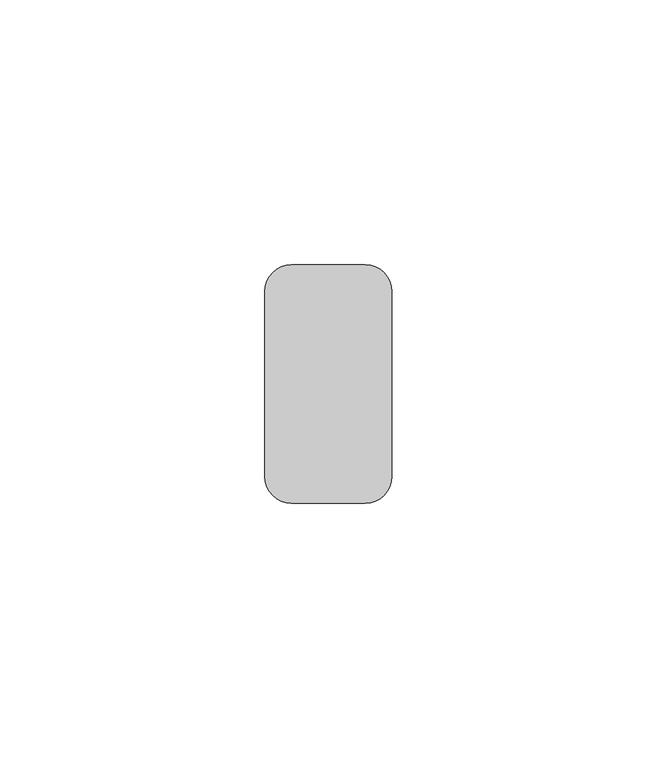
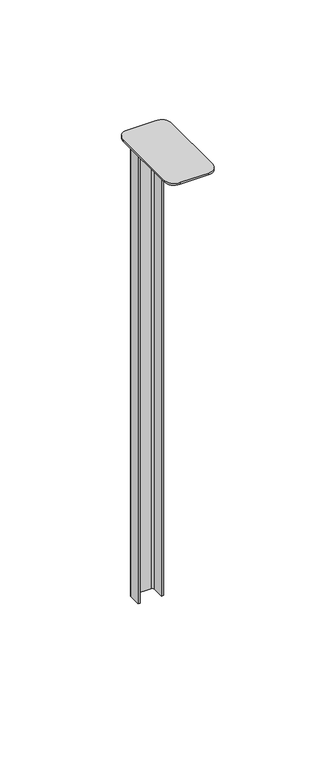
"""IFC4 building model written with IfcOpenShell, lengths in millimetres: proxy geometry, durlum_U1300 : durlum_U1300."""

from ifc_helpers import new_model, si_unit, point, frame, frame_2d, origin, place, context, project, spatial, polyline, circle_curve, trimmed, segment, composite_curve, outline, extrude, source, transform, mapped, element, save


def generic_models_e62b76ac(model_context):
    return source(origin(), model_context, "Body", "SweptSolid", [
        extrude(outline(composite_curve([segment(trimmed(circle_curve(frame_2d((7.0, -5.0)), 5.0), [point((7.0, 0.0))], [point((12.0, -5.0))], False, "CARTESIAN"), True, "CONTINUOUS"), segment(polyline([(12.0, -5.0), (12.0, -40.0)]), True, "CONTINUOUS"), segment(trimmed(circle_curve(frame_2d((7.0, -40.0)), 5.0), [point((12.0, -40.0))], [point((7.0, -45.0))], False, "CARTESIAN"), True, "CONTINUOUS"), segment(polyline([(7.0, -45.0), (-7.0, -45.0)]), True, "CONTINUOUS"), segment(trimmed(circle_curve(frame_2d((-7.0, -40.0)), 5.0), [point((-7.0, -45.0))], [point((-12.0, -40.0))], False, "CARTESIAN"), True, "CONTINUOUS"), segment(polyline([(-12.0, -40.0), (-12.0, -5.0)]), True, "CONTINUOUS"), segment(trimmed(circle_curve(frame_2d((-7.0, -5.0)), 5.0), [point((-12.0, -5.0))], [point((-7.0, 0.0))], False, "CARTESIAN"), True, "CONTINUOUS"), segment(polyline([(-7.0, 0.0), (7.0, 0.0)]), True, "CONTINUOUS")], self_intersect=False)), frame((0.0, 0.0, 957.5875318), z_axis=(0.0, 0.0, 1.0), x_axis=(1.0, 0.0, 0.0)), (0.0, 0.0, 1.0), 1.0),
        extrude(outline(composite_curve([segment(trimmed(circle_curve(frame_2d((-4.25, -2.0)), 2.0), [point((-6.25, -2.0))], [point((-4.25, 0.0))], False, "CARTESIAN"), True, "CONTINUOUS"), segment(polyline([(-4.25, 0.0), (4.25, 0.0)]), True, "CONTINUOUS"), segment(trimmed(circle_curve(frame_2d((4.25, -2.0)), 2.0), [point((4.25, 0.0))], [point((6.25, -2.0))], False, "CARTESIAN"), True, "CONTINUOUS"), segment(polyline([(6.25, -2.0), (6.25, -8.0), (5.25, -8.0), (5.25, -2.0)]), True, "CONTINUOUS"), segment(trimmed(circle_curve(frame_2d((4.25, -2.0)), 1.0), [point((5.25, -2.0))], [point((4.25, -1.0))], True, "CARTESIAN"), True, "CONTINUOUS"), segment(polyline([(4.25, -1.0), (-4.25, -1.0)]), True, "CONTINUOUS"), segment(trimmed(circle_curve(frame_2d((-4.25, -2.0)), 1.0), [point((-4.25, -1.0))], [point((-5.25, -2.0))], True, "CARTESIAN"), True, "CONTINUOUS"), segment(polyline([(-5.25, -2.0), (-5.25, -8.0), (-6.25, -8.0), (-6.25, -2.0)]), True, "CONTINUOUS")], self_intersect=False)), frame((0.0, 0.0, 716.5875318), z_axis=(0.0, 0.0, 1.0), x_axis=(1.0, 0.0, 0.0)), (0.0, 0.0, 1.0), 241.0),
    ])


if __name__ == "__main__":
    model = new_model("IFC4")
    model_context = context("Model", 3, world=origin())
    ifc_project = project(units=[si_unit("LENGTHUNIT", "METRE", prefix="MILLI")], contexts=[model_context])
    site = spatial("IfcSite", under=ifc_project)
    building = spatial("IfcBuilding", under=site)
    placement = place(None, origin())
    generic_models_shape = generic_models_e62b76ac(model_context)
    element("IfcBuildingElementProxy", 1, Name="durlum_U1300 : durlum_U1300", ObjectType="durlum_U1300 : durlum_U1300", at=placement, inside=building, context=model_context, shape_type="MappedRepresentation", body=[
        mapped(generic_models_shape, transform((0.0, 0.0, 0.0), x_axis=(1.0, 0.0, 0.0), y_axis=(0.0, 1.0, 0.0), z_axis=(0.0, 0.0, 1.0))),
    ])
    save(model, "model.ifc")
